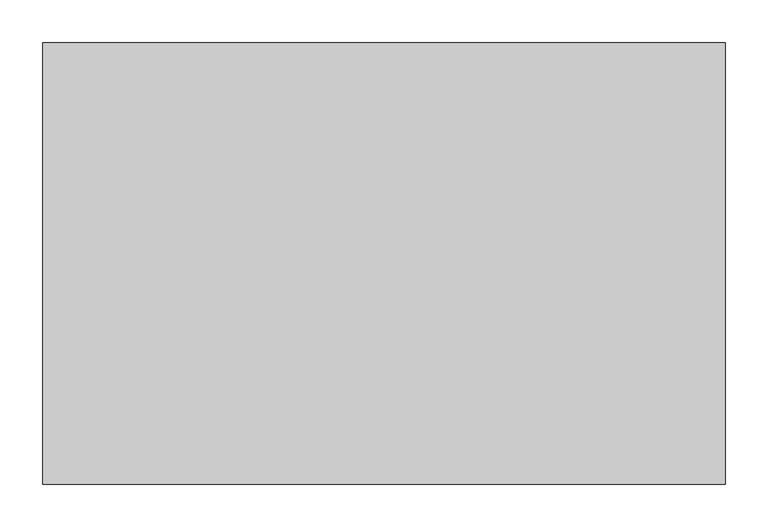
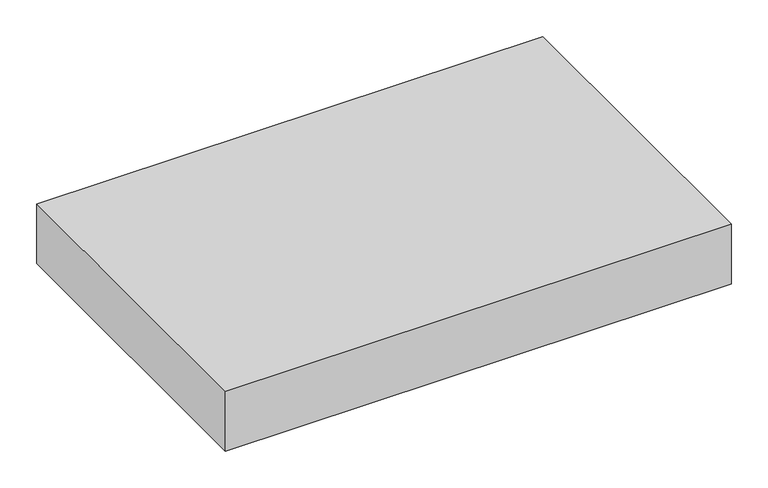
"""IFC4 building model written with IfcOpenShell, lengths in millimetres: proxy geometry, 機械基礎(電気) : 機械基礎(電気)."""

from ifc_helpers import new_model, si_unit, origin, origin_with_axes, place, context, project, spatial, polyline, outline, extrude, source, transform, mapped, element, save


def specialty_equipment_d129d846(model_context):
    return source(origin(), model_context, "Body", "SweptSolid", [
        extrude(outline(polyline([(400.0, -258.6367854), (-400.0, -258.6367854), (-400.0, 258.6367854), (400.0, 258.6367854), (400.0, -258.6367854)])), origin_with_axes(), (0.0, 0.0, 1.0), 100.0),
    ])


if __name__ == "__main__":
    model = new_model("IFC4")
    model_context = context("Model", 3, world=origin())
    ifc_project = project(units=[si_unit("LENGTHUNIT", "METRE", prefix="MILLI")], contexts=[model_context])
    site = spatial("IfcSite", under=ifc_project)
    building = spatial("IfcBuilding", under=site)
    placement = place(None, origin())
    specialty_equipment_shape = specialty_equipment_d129d846(model_context)
    element("IfcBuildingElementProxy", 1, Name="機械基礎(電気) : 機械基礎(電気)", ObjectType="機械基礎(電気) : 機械基礎(電気)", at=placement, inside=building, context=model_context, shape_type="MappedRepresentation", body=[
        mapped(specialty_equipment_shape, transform((0.0, 0.0, 0.0), x_axis=(1.0, 0.0, 0.0), y_axis=(0.0, 1.0, 0.0), z_axis=(0.0, 0.0, 1.0))),
    ])
    save(model, "model.ifc")
